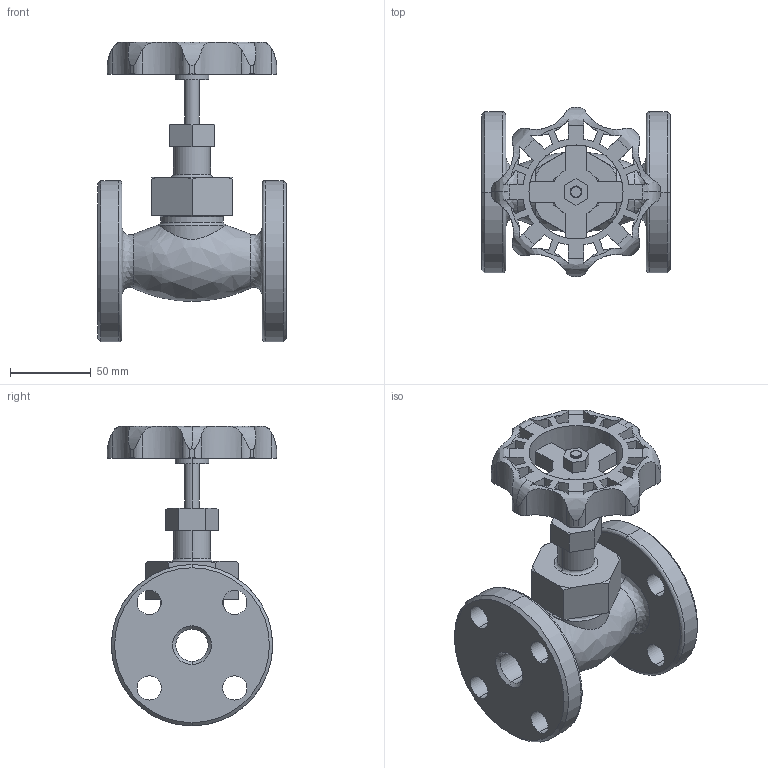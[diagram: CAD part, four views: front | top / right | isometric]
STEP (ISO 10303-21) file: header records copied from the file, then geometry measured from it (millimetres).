
FILE_DESCRIPTION( (''), '2;1');
FILE_NAME ('PC1027.9568.GLV-10F 20A_16488.stp','2025-07-28T11:35:35',(''),(''),'spGate 19.8.4 (****-****-****-****)','','');
FILE_SCHEMA (('AUTOMOTIVE_DESIGN'));
Length unit declared in the file: millimetre
Bounding box: 117 x 104.95 x 185.81 mm (x, y, z)
Volume: 464780.1 mm3; surface area: 102274.9 mm2
Topology: 1 solids, 1 shells, 224 faces, 664 edges, 434 vertices
Faces by surface type: cylinder 103, plane 73, bspline 48
Entity records: 13996 total; most frequent: CARTESIAN_POINT 3199, ORIENTED_EDGE 1328, DIRECTION 1108, COLOUR_RGB 889, PRESENTATION_STYLE_ASSIGNMENT 889, STYLED_ITEM 889, EDGE_CURVE 664, DRAUGHTING_PRE_DEFINED_CURVE_FONT 664
